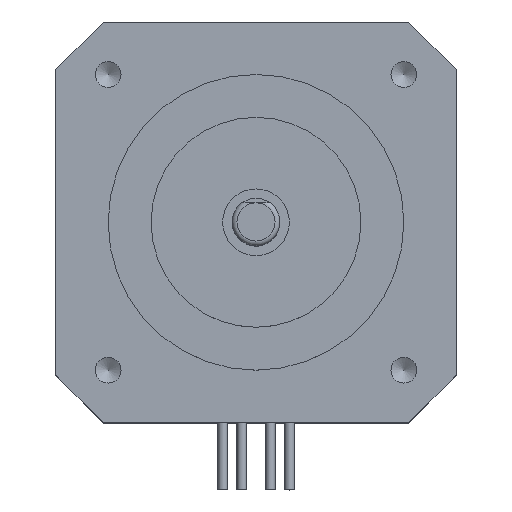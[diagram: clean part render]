
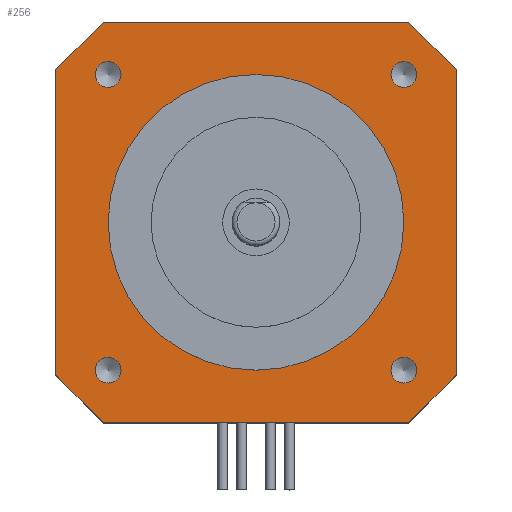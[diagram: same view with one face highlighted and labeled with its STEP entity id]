
A CAD part, top view. The second image highlights one B-rep face of the part: STEP entity #256.
In plain terms, the highlighted planar face has unit normal (0, 0, 1).
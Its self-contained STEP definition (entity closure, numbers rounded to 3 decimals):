
#256=ADVANCED_FACE('',(#1048,#1049,#1050,#1051,#1052,#1053),#404,.F.);
#404=PLANE('',#2536);
#562=LINE('',#3485,#821);
#563=LINE('',#3488,#822);
#564=LINE('',#3490,#823);
#565=LINE('',#3492,#824);
#566=LINE('',#3494,#825);
#567=LINE('',#3496,#826);
#568=LINE('',#3498,#827);
#569=LINE('',#3500,#828);
#821=VECTOR('',#2793,1.);
#822=VECTOR('',#2794,1.);
#823=VECTOR('',#2795,1.);
#824=VECTOR('',#2796,1.);
#825=VECTOR('',#2797,1.);
#826=VECTOR('',#2798,1.);
#827=VECTOR('',#2799,1.);
#828=VECTOR('',#2800,1.);
#1048=FACE_BOUND('',#1138,.T.);
#1049=FACE_BOUND('',#1139,.T.);
#1050=FACE_BOUND('',#1140,.T.);
#1051=FACE_BOUND('',#1141,.T.);
#1052=FACE_BOUND('',#1142,.T.);
#1053=FACE_BOUND('',#1143,.T.);
#1138=EDGE_LOOP('',(#1371));
#1139=EDGE_LOOP('',(#1372));
#1140=EDGE_LOOP('',(#1373));
#1141=EDGE_LOOP('',(#1374));
#1142=EDGE_LOOP('',(#1375,#1376,#1377,#1378,#1379,#1380,#1381,#1382));
#1143=EDGE_LOOP('',(#1383));
#1371=ORIENTED_EDGE('',*,*,#2213,.T.);
#1372=ORIENTED_EDGE('',*,*,#2214,.T.);
#1373=ORIENTED_EDGE('',*,*,#2215,.T.);
#1374=ORIENTED_EDGE('',*,*,#2216,.T.);
#1375=ORIENTED_EDGE('',*,*,#2217,.F.);
#1376=ORIENTED_EDGE('',*,*,#2218,.T.);
#1377=ORIENTED_EDGE('',*,*,#2219,.F.);
#1378=ORIENTED_EDGE('',*,*,#2220,.T.);
#1379=ORIENTED_EDGE('',*,*,#2221,.F.);
#1380=ORIENTED_EDGE('',*,*,#2222,.T.);
#1381=ORIENTED_EDGE('',*,*,#2223,.F.);
#1382=ORIENTED_EDGE('',*,*,#2224,.T.);
#1383=ORIENTED_EDGE('',*,*,#2225,.T.);
#1989=VERTEX_POINT('',#3478);
#1990=VERTEX_POINT('',#3480);
#1991=VERTEX_POINT('',#3482);
#1992=VERTEX_POINT('',#3484);
#1993=VERTEX_POINT('',#3486);
#1994=VERTEX_POINT('',#3487);
#1995=VERTEX_POINT('',#3489);
#1996=VERTEX_POINT('',#3491);
#1997=VERTEX_POINT('',#3493);
#1998=VERTEX_POINT('',#3495);
#1999=VERTEX_POINT('',#3497);
#2000=VERTEX_POINT('',#3499);
#2001=VERTEX_POINT('',#3502);
#2213=EDGE_CURVE('',#1989,#1989,#2478,.T.);
#2214=EDGE_CURVE('',#1990,#1990,#2479,.T.);
#2215=EDGE_CURVE('',#1991,#1991,#2480,.T.);
#2216=EDGE_CURVE('',#1992,#1992,#2481,.T.);
#2217=EDGE_CURVE('',#1993,#1994,#562,.T.);
#2218=EDGE_CURVE('',#1993,#1995,#563,.T.);
#2219=EDGE_CURVE('',#1996,#1995,#564,.T.);
#2220=EDGE_CURVE('',#1996,#1997,#565,.T.);
#2221=EDGE_CURVE('',#1998,#1997,#566,.T.);
#2222=EDGE_CURVE('',#1998,#1999,#567,.T.);
#2223=EDGE_CURVE('',#2000,#1999,#568,.T.);
#2224=EDGE_CURVE('',#2000,#1994,#569,.T.);
#2225=EDGE_CURVE('',#2001,#2001,#2482,.T.);
#2478=CIRCLE('',#2531,1.35);
#2479=CIRCLE('',#2532,1.35);
#2480=CIRCLE('',#2533,1.35);
#2481=CIRCLE('',#2534,1.35);
#2482=CIRCLE('',#2535,15.5);
#2531=AXIS2_PLACEMENT_3D('',#3477,#2785,#2786);
#2532=AXIS2_PLACEMENT_3D('',#3479,#2787,#2788);
#2533=AXIS2_PLACEMENT_3D('',#3481,#2789,#2790);
#2534=AXIS2_PLACEMENT_3D('',#3483,#2791,#2792);
#2535=AXIS2_PLACEMENT_3D('',#3501,#2801,#2802);
#2536=AXIS2_PLACEMENT_3D('',#3503,#2803,#2804);
#2785=DIRECTION('',(0.,0.,-1.));
#2786=DIRECTION('',(-1.,0.,0.));
#2787=DIRECTION('',(0.,0.,-1.));
#2788=DIRECTION('',(-1.,0.,0.));
#2789=DIRECTION('',(0.,0.,-1.));
#2790=DIRECTION('',(-1.,0.,0.));
#2791=DIRECTION('',(0.,0.,-1.));
#2792=DIRECTION('',(-1.,0.,0.));
#2793=DIRECTION('',(1.,0.,0.));
#2794=DIRECTION('',(-0.707,-0.707,0.));
#2795=DIRECTION('',(0.,1.,0.));
#2796=DIRECTION('',(0.707,-0.707,0.));
#2797=DIRECTION('',(-1.,0.,0.));
#2798=DIRECTION('',(0.707,0.707,0.));
#2799=DIRECTION('',(0.,-1.,0.));
#2800=DIRECTION('',(-0.707,0.707,0.));
#2801=DIRECTION('',(0.,0.,-1.));
#2802=DIRECTION('',(1.,0.,0.));
#2803=DIRECTION('',(0.,0.,-1.));
#2804=DIRECTION('',(-1.,0.,0.));
#3477=CARTESIAN_POINT('',(15.5,-15.5,0.));
#3478=CARTESIAN_POINT('',(14.15,-15.5,0.));
#3479=CARTESIAN_POINT('',(15.5,15.5,0.));
#3480=CARTESIAN_POINT('',(14.15,15.5,0.));
#3481=CARTESIAN_POINT('',(-15.5,15.5,0.));
#3482=CARTESIAN_POINT('',(-16.85,15.5,0.));
#3483=CARTESIAN_POINT('',(-15.5,-15.5,0.));
#3484=CARTESIAN_POINT('',(-16.85,-15.5,0.));
#3485=CARTESIAN_POINT('',(-21.,21.,0.));
#3486=CARTESIAN_POINT('',(-16.,21.,0.));
#3487=CARTESIAN_POINT('',(16.,21.,0.));
#3488=CARTESIAN_POINT('',(-16.,21.,0.));
#3489=CARTESIAN_POINT('',(-21.,16.,0.));
#3490=CARTESIAN_POINT('',(-21.,-21.,0.));
#3491=CARTESIAN_POINT('',(-21.,-16.,0.));
#3492=CARTESIAN_POINT('',(-21.,-16.,0.));
#3493=CARTESIAN_POINT('',(-16.,-21.,0.));
#3494=CARTESIAN_POINT('',(21.,-21.,0.));
#3495=CARTESIAN_POINT('',(16.,-21.,0.));
#3496=CARTESIAN_POINT('',(16.,-21.,0.));
#3497=CARTESIAN_POINT('',(21.,-16.,0.));
#3498=CARTESIAN_POINT('',(21.,21.,0.));
#3499=CARTESIAN_POINT('',(21.,16.,0.));
#3500=CARTESIAN_POINT('',(21.,16.,0.));
#3501=CARTESIAN_POINT('',(0.,0.,0.));
#3502=CARTESIAN_POINT('',(15.5,0.,0.));
#3503=CARTESIAN_POINT('',(-21.,-21.,0.));
